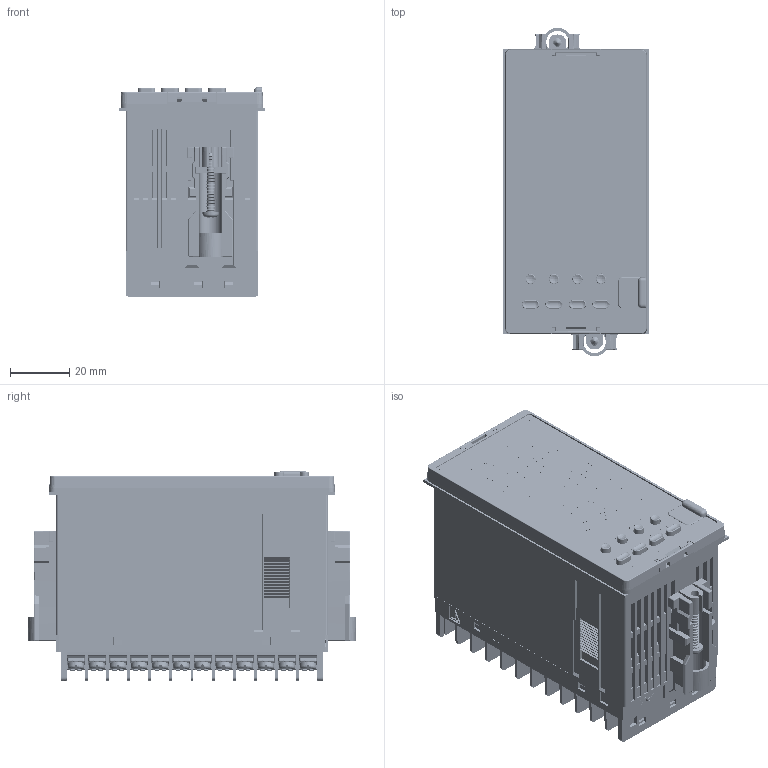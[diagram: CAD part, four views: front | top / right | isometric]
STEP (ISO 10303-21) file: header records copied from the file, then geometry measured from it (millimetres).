
FILE_DESCRIPTION (( 'STEP AP203' ), '1' );
FILE_NAME ('PZ400_WEB.STEP', '2020-06-11T08:11:04', ( '' ), ( '' ), 'SwSTEP 2.0', 'SolidWorks 2018', '' );
FILE_SCHEMA (( 'CONFIG_CONTROL_DESIGN' ));
Products named in the file (1): PZ400_WEB
Bounding box: 49.2 x 110.45 x 70.6 mm (x, y, z)
Volume: 261828.9 mm3; surface area: 53120.7 mm2
Topology: 6 solids, 14 shells, 16165 faces, 45384 edges, 29664 vertices
Faces by surface type: plane 10413, cylinder 3708, bspline 1558, sphere 196, cone 188, torus 102
Entity records: 559399 total; most frequent: CARTESIAN_POINT 148617, ORIENTED_EDGE 90424, DIRECTION 78560, EDGE_CURVE 45212, LINE 33904, VECTOR 33904, VERTEX_POINT 29664, AXIS2_PLACEMENT_3D 22328
